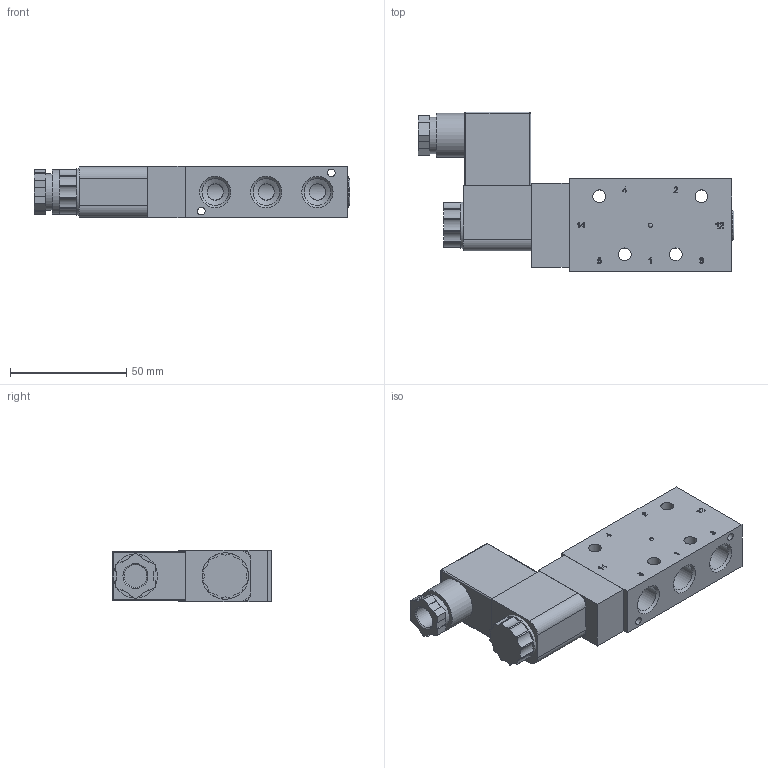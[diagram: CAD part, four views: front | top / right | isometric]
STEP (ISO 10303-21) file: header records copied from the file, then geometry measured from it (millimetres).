
FILE_DESCRIPTION(/* description */ ('Unknown','CAx-IF Rec.Pracs.---Representation and Presentation of Product Manufacturing Information (PMI)---4.0---2014-10-13','CAx-IF Rec.Pracs.---3D Tessellated Geometry---0.4---2014-09-14','2;1'),/* implementation_level */ '2;1');
FILE_NAME(/* name */ 'MH 510 701 G TT + MA 22 + ST 22',/* time_stamp */ '2019-04-17T08:11:49+02:00',/* author */ ('Unknown'),/* organization */ ('Unknown'),/* preprocessor_version */ 'ST-DEVELOPER v16.7',/* originating_system */ 'DEX',/* authorisation */ $);
FILE_SCHEMA (('AP242_MANAGED_MODEL_BASED_3D_ENGINEERING_MIM_LF { 1 0 10303 442 20130219 1 4 }'));
Length unit declared in the file: millimetre
Products named in the file (2): MH 510 701 G TT + MA 22 + ST 22
Assembly tree (1 placements, depth 2):
  MH 510 701 G TT + MA 22 + ST 22
    MH 510 701 G TT + MA 22 + ST 22
Bounding box: 136 x 68.7 x 22 mm (x, y, z)
Volume: 99731 mm3; surface area: 35102.1 mm2
Topology: 6 solids, 6 shells, 566 faces, 1471 edges, 973 vertices
Faces by surface type: plane 358, cylinder 101, bspline 76, cone 25, sphere 5, torus 1
Full cylindrical faces by diameter (mm): 1.5 x3, 1.6 x1, 1.85 x1, 2.459 x10, 3.236 x1, 3.3 x2, 5.5 x4, 5.6 x4, 6 x1, 6.1 x1, 7 x5, 7.3 x1, 8 x1, 8.15 x1, 8.5 x1, 9 x2, 9.15 x1, 9.75 x1, 11.445 x10, 11.6 x1, 12 x1, 12.06 x1, 13 x1, 14.5 x1, 15.6 x1, 16 x2, 19 x1, 20 x1
Entity records: 21489 total; most frequent: CARTESIAN_POINT 4696, ORIENTED_EDGE 2634, DIRECTION 2355, EDGE_CURVE 1317, VERTEX_POINT 923, LINE 919, VECTOR 919, FACE_BOUND 766
